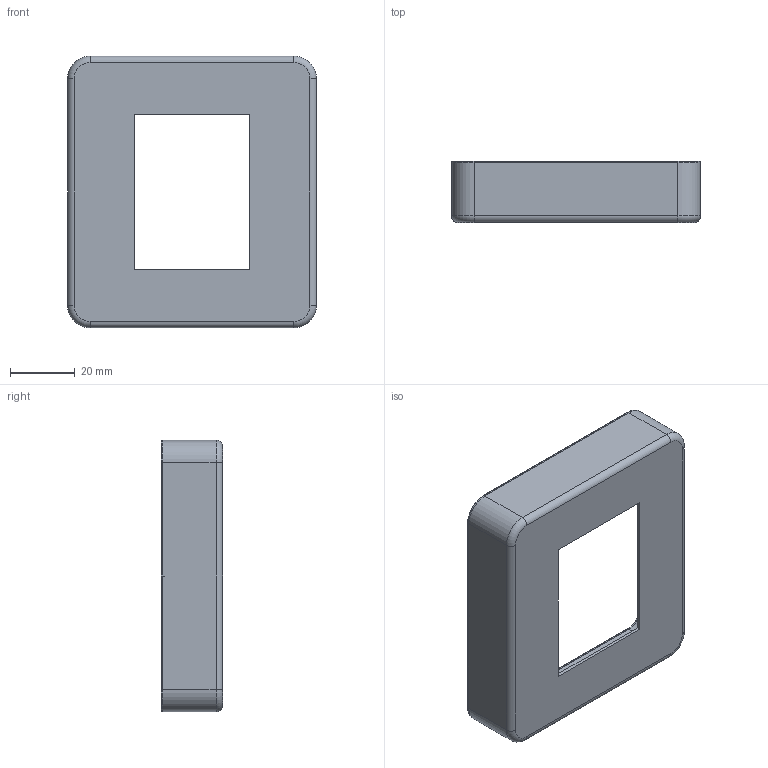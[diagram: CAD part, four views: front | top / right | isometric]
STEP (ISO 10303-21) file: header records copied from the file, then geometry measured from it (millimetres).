
FILE_DESCRIPTION (( 'STEP AP203' ), '1' );
FILE_NAME ('166729_3D_Korpus.STEP', '2020-12-03T15:26:25', ( '' ), ( '' ), 'SwSTEP 2.0', 'SolidWorks 2020', '' );
FILE_SCHEMA (( 'CONFIG_CONTROL_DESIGN' ));
Length unit declared in the file: millimetre
Products named in the file (1): 166729_3D_Korpus
Bounding box: 77 x 18.89 x 84 mm (x, y, z)
Volume: 18017.5 mm3; surface area: 21443.8 mm2
Topology: 1 solids, 1 shells, 317 faces, 763 edges, 484 vertices
Faces by surface type: plane 208, cylinder 73, torus 28, cone 8
Entity records: 9191 total; most frequent: DIRECTION 1584, CARTESIAN_POINT 1565, ORIENTED_EDGE 1526, EDGE_CURVE 763, VECTOR 578, LINE 578, AXIS2_PLACEMENT_3D 503, VERTEX_POINT 484
